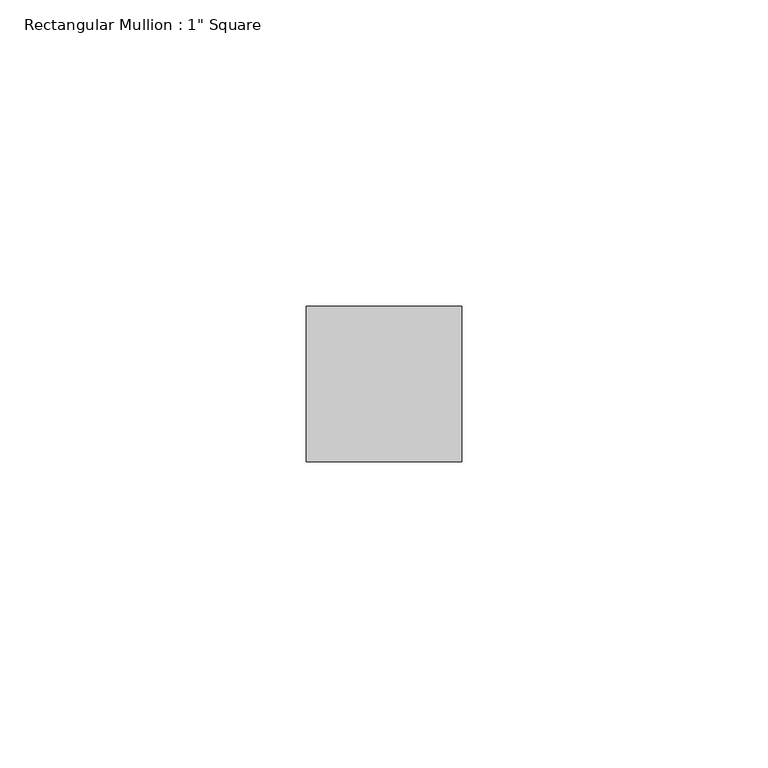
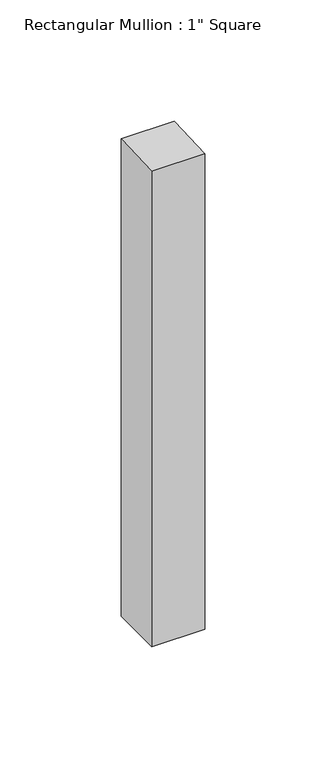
"""IFC4 building model written with IfcOpenShell, lengths in millimetres: member geometry."""

from ifc_helpers import new_model, si_unit, frame, origin, place, context, project, spatial, polyline, outline, extrude, source, transform, mapped, element, save


def member_ff9adfd2(model_context):
    return source(origin(), model_context, "Body", "SweptSolid", [
        extrude(outline(polyline([(-12.7, -0.5286454), (12.7, 0.5286454), (12.7, -240.5050922), (-12.7, -240.5050922), (-12.7, -0.5286454)])), frame((-12.7, 0.0, 0.0), z_axis=(1.0, 0.0, 0.0), x_axis=(0.0, 1.0, 0.0)), (0.0, 0.0, 1.0), 25.4),
    ])


if __name__ == "__main__":
    model = new_model("IFC4")
    model_context = context("Model", 3, world=origin())
    ifc_project = project(units=[si_unit("LENGTHUNIT", "METRE", prefix="MILLI")], contexts=[model_context])
    site = spatial("IfcSite", under=ifc_project)
    building = spatial("IfcBuilding", under=site)
    placement = place(None, origin())
    member_shape = member_ff9adfd2(model_context)
    element("IfcMember", 1, ObjectType="Rectangular Mullion : 1\" Square", at=placement, inside=building, context=model_context, shape_type="MappedRepresentation", body=[
        mapped(member_shape, transform((0.0, 0.0, 0.0), x_axis=(1.0, 0.0, 0.0), y_axis=(0.0, 1.0, 0.0), z_axis=(0.0, 0.0, 1.0))),
    ])
    save(model, "model.ifc")
